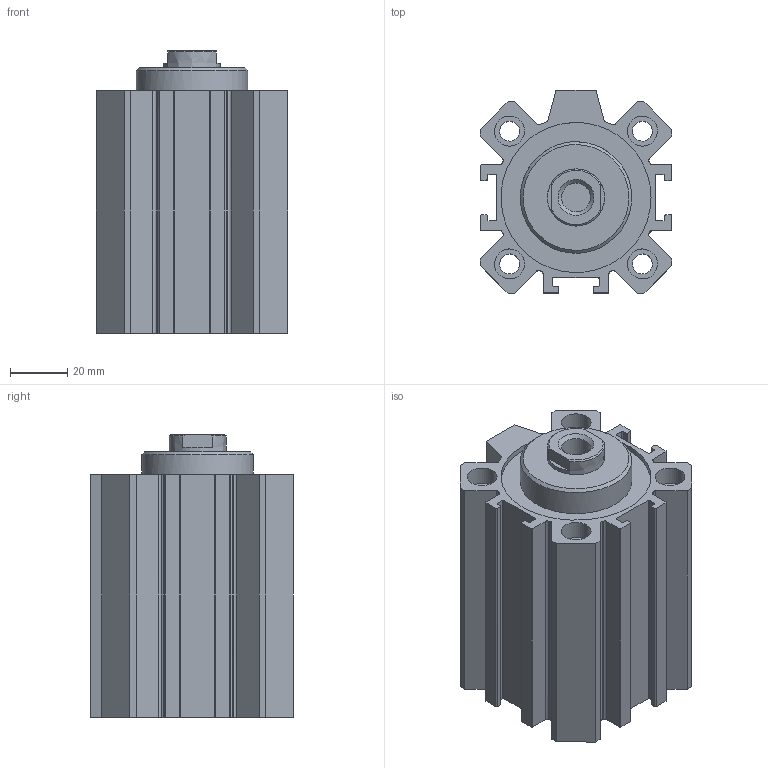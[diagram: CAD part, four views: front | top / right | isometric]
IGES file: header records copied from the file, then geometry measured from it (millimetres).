
Global section: file name: 1511_50_0045; native system: Autodesk Inventor 2014; preprocessor: unknown; author: A. Manieri; date: 20160824.134041; units: millimetre
Bounding box: 67 x 71 x 99 mm (x, y, z)
Volume: 229305.4 mm3; surface area: 75037.3 mm2
Topology: 2 solids, 2 shells, 165 faces, 443 edges, 300 vertices
Faces by surface type: bspline 165
